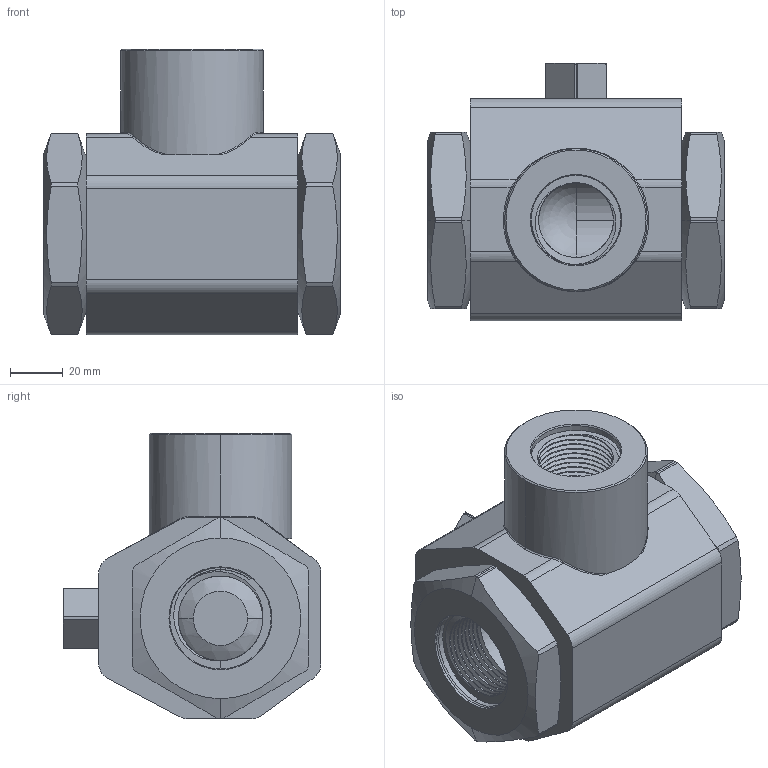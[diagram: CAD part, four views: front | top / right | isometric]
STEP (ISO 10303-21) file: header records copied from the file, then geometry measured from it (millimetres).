
FILE_DESCRIPTION (( 'STEP AP203' ), '1' );
FILE_NAME ('CFM-S20TL.STEP', '2022-02-28T18:31:10', ( '' ), ( '' ), 'SwSTEP 2.0', 'SolidWorks 2021', '' );
FILE_SCHEMA (( 'CONFIG_CONTROL_DESIGN' ));
Length unit declared in the file: inch
Products named in the file (6): CFM-S20TL; CFM-S20-SEAT; CFM-S20-endfitting; CFM-S20TL-ball; CFM-S20TL-stem
Assembly tree (7 placements, depth 2):
  CFM-S20TL
    CFM-S20-endfitting  x2
    CFM-S20TL
    CFM-S20TL-ball
    CFM-S20TL-stem
    CFM-S20-SEAT  x2
Bounding box: 112.04 x 97.5 x 108 mm (x, y, z)
Volume: 522150.2 mm3; surface area: 113632.4 mm2
Topology: 7 solids, 7 shells, 245 faces, 640 edges, 414 vertices
Faces by surface type: cylinder 134, plane 58, cone 22, bspline 17, torus 7, sphere 7
Entity records: 13266 total; most frequent: CARTESIAN_POINT 8332, ORIENTED_EDGE 954, DIRECTION 857, EDGE_CURVE 477, AXIS2_PLACEMENT_3D 338, VERTEX_POINT 306, EDGE_LOOP 199, FACE_OUTER_BOUND 184
